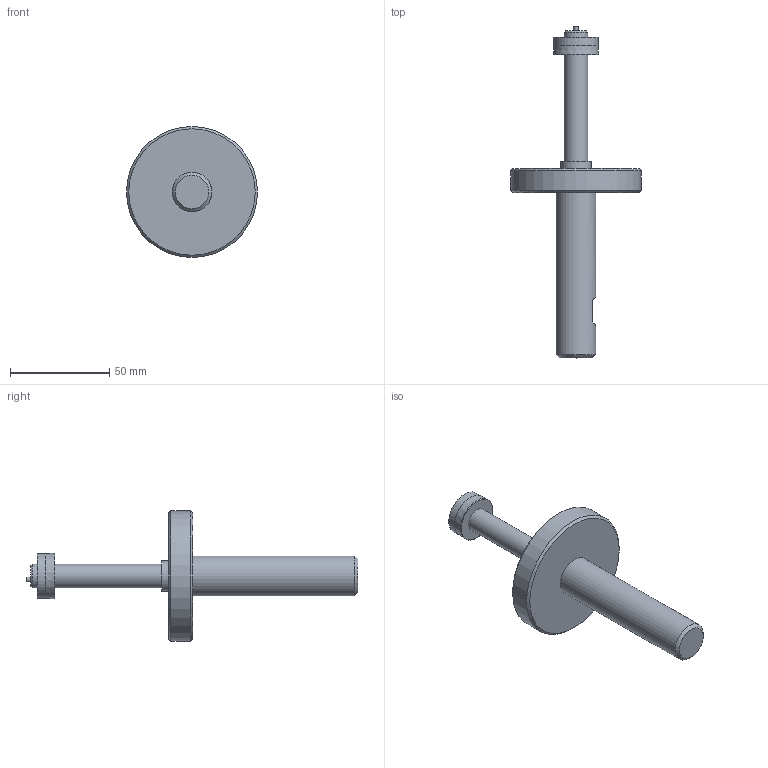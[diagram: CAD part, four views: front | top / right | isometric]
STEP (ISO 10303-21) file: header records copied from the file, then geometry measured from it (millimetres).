
FILE_DESCRIPTION (( 'STEP AP203' ), '1' );
FILE_NAME ('AF47-SIMPLE - AF47-12.00M-23.00M.step', '2025-01-21T15:34:40', ( '' ), ( '' ), 'SwSTEP 2.0', 'SolidWorks 2024', '' );
FILE_SCHEMA (( 'CONFIG_CONTROL_DESIGN' ));
Length unit declared in the file: inch
Products named in the file (1): AF47-SIMPLE - AF47-12.00M-23.00M
Bounding box: 66.04 x 167.39 x 66.04 mm (x, y, z)
Volume: 77968.4 mm3; surface area: 17793.9 mm2
Topology: 1 solids, 1 shells, 24 faces, 40 edges, 25 vertices
Faces by surface type: plane 11, cylinder 7, cone 5, torus 1
Full cylindrical faces by diameter (mm): 2.286 x1, 11.862 x2, 15.24 x1, 20 x1, 22.494 x1, 66.04 x1
Entity records: 569 total; most frequent: DIRECTION 94, CARTESIAN_POINT 81, ORIENTED_EDGE 52, AXIS2_PLACEMENT_3D 45, EDGE_LOOP 44, FACE_OUTER_BOUND 32, EDGE_CURVE 26, VERTEX_POINT 24
